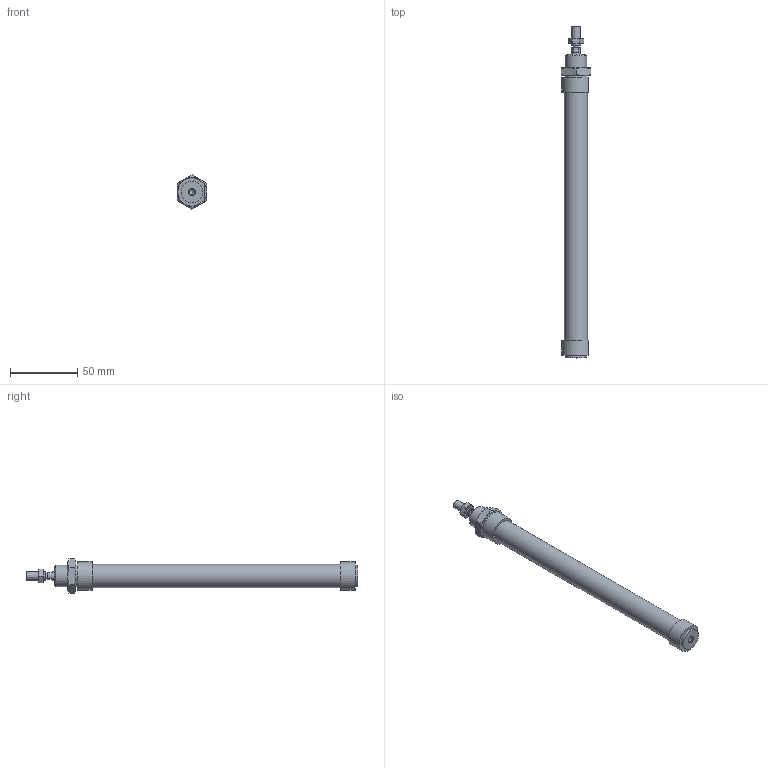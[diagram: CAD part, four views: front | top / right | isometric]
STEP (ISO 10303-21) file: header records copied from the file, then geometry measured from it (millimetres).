
FILE_DESCRIPTION((''),'2;1');
FILE_NAME('I:\Area Tecnica\Disegni\VARIE-3D\Componenti\1280\1281_##_####_#\1281_16_0150.iam.stp','2009-06-04T09:38:40',(''),(''),'Autodesk Inventor 2010','Autodesk Inventor 2010','');
FILE_SCHEMA(('AUTOMOTIVE_DESIGN { 1 0 10303 214 1 1 1 1 }'));
Length unit declared in the file: millimetre
Products named in the file (5): 1281_16_0150; C1281_16_150; S1280_16_150; 1200_16_05; 1200_16_06
Assembly tree (4 placements, depth 2):
  1281_16_0150
    C1281_16_150
    S1280_16_150
    1200_16_05
    1200_16_06
Bounding box: 22 x 246 x 25.4 mm (x, y, z)
Volume: 56006 mm3; surface area: 22030 mm2
Topology: 4 solids, 4 shells, 83 faces, 169 edges, 102 vertices
Faces by surface type: plane 34, cone 26, bspline 14, cylinder 9
Full cylindrical faces by diameter (mm): 5 x1, 6 x3, 16 x2, 17.2 x1
Entity records: 2370 total; most frequent: CARTESIAN_POINT 636, DIRECTION 314, ORIENTED_EDGE 284, AXIS2_PLACEMENT_3D 142, EDGE_CURVE 142, EDGE_LOOP 116, VERTEX_POINT 96, STYLED_ITEM 87
